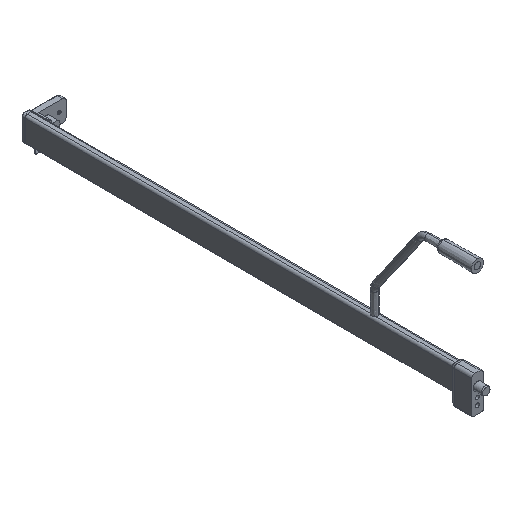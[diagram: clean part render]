
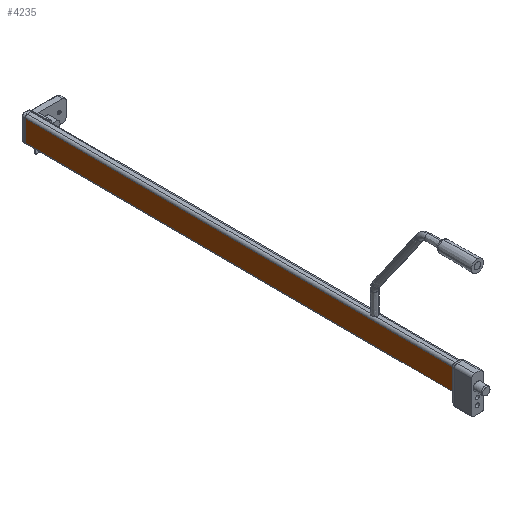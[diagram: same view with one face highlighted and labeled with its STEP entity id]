
A CAD part, isometric view. The second image highlights one B-rep face of the part: STEP entity #4235.
In plain terms, the highlighted planar face has unit normal (-1, 0, 0).
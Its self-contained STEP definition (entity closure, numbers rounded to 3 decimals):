
#586 = PLANE ( 'NONE',  #1481 ) ;
#587 = CARTESIAN_POINT ( 'NONE',  ( -5.25, 584.23, -13.691 ) ) ;
#588 = DIRECTION ( 'NONE',  ( 1., 0., 0. ) ) ;
#589 = DIRECTION ( 'NONE',  ( 0., 0., -1. ) ) ;
#906 = VERTEX_POINT ( 'NONE', #4510 ) ;
#1013 = EDGE_CURVE ( 'NONE', #1947, #1623, #2438, .T. ) ;
#1014 = EDGE_CURVE ( 'NONE', #1954, #906, #2440, .T. ) ;
#1020 = EDGE_CURVE ( 'NONE', #1954, #1947, #2444, .T. ) ;
#1037 = EDGE_CURVE ( 'NONE', #906, #1623, #2462, .T. ) ;
#1481 = AXIS2_PLACEMENT_3D ( 'NONE', #587, #588, #589 ) ;
#1623 = VERTEX_POINT ( 'NONE', #5283 ) ;
#1861 = CARTESIAN_POINT ( 'NONE',  ( -5.25, 584.23, -13.691 ) ) ;
#1862 = DIRECTION ( 'NONE',  ( 0., -1., -0.003 ) ) ;
#1947 = VERTEX_POINT ( 'NONE', #4528 ) ;
#1954 = VERTEX_POINT ( 'NONE', #4541 ) ;
#2175 = CARTESIAN_POINT ( 'NONE',  ( -5.25, 25., 15. ) ) ;
#2176 = DIRECTION ( 'NONE',  ( 0., 0., -1. ) ) ;
#2177 = CARTESIAN_POINT ( 'NONE',  ( -5.25, 550.4, -13.691 ) ) ;
#2178 = DIRECTION ( 'NONE',  ( 0., 0., -1. ) ) ;
#2185 = CARTESIAN_POINT ( 'NONE',  ( -5.25, 584.146, 12.309 ) ) ;
#2186 = DIRECTION ( 'NONE',  ( 0., -1., -0.003 ) ) ;
#2438 = LINE ( 'NONE', #2175, #2439 ) ;
#2439 = VECTOR ( 'NONE', #2176, 1000. ) ;
#2440 = LINE ( 'NONE', #2177, #2441 ) ;
#2441 = VECTOR ( 'NONE', #2178, 1000. ) ;
#2444 = LINE ( 'NONE', #2185, #2445 ) ;
#2445 = VECTOR ( 'NONE', #2186, 1000. ) ;
#2462 = LINE ( 'NONE', #1861, #2463 ) ;
#2463 = VECTOR ( 'NONE', #1862, 1000. ) ;
#2823 = FACE_OUTER_BOUND ( 'NONE', #4897, .T. ) ;
#4235 = ADVANCED_FACE ( 'NONE', ( #2823 ), #586, .F. ) ;
#4510 = CARTESIAN_POINT ( 'NONE',  ( -5.25, 550.4, -13.8 ) ) ;
#4528 = CARTESIAN_POINT ( 'NONE',  ( -5.25, 25., 10.5 ) ) ;
#4541 = CARTESIAN_POINT ( 'NONE',  ( -5.25, 550.4, 12.2 ) ) ;
#4897 = EDGE_LOOP ( 'NONE', ( #5075, #5076, #5077, #5078 ) ) ;
#5075 = ORIENTED_EDGE ( 'NONE', *, *, #1014, .T. ) ;
#5076 = ORIENTED_EDGE ( 'NONE', *, *, #1037, .T. ) ;
#5077 = ORIENTED_EDGE ( 'NONE', *, *, #1013, .F. ) ;
#5078 = ORIENTED_EDGE ( 'NONE', *, *, #1020, .F. ) ;
#5283 = CARTESIAN_POINT ( 'NONE',  ( -5.25, 25., -15.5 ) ) ;
